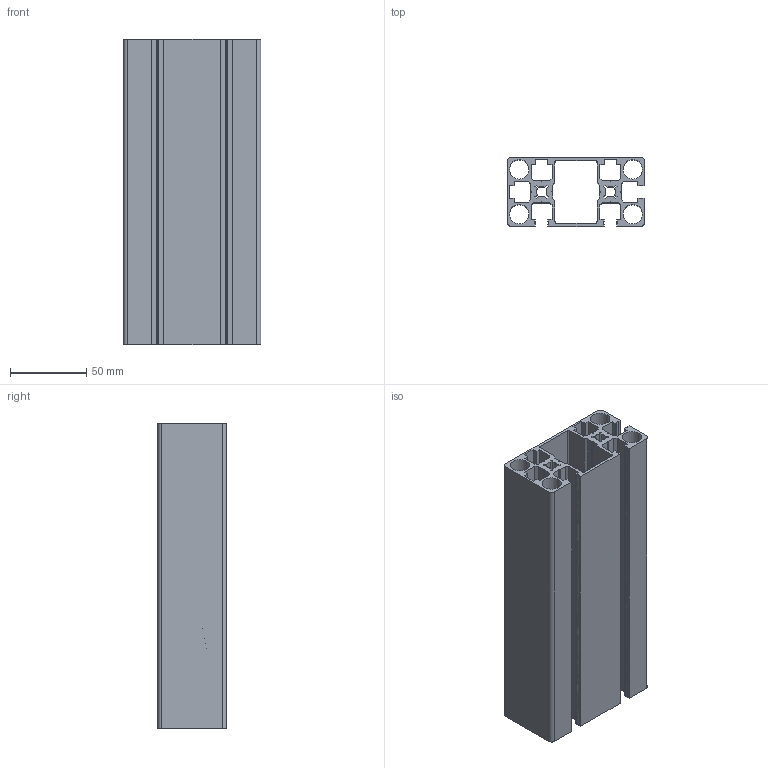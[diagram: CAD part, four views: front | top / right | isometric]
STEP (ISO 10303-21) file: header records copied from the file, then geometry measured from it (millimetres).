
FILE_DESCRIPTION (( 'STEP AP203' ), '1' );
FILE_NAME ('011723 REF 4590L 2C.STEP', '2015-12-01T11:52:06', ( '' ), ( '' ), 'SwSTEP 2.0', 'SolidWorks 2015', '' );
FILE_SCHEMA (( 'CONFIG_CONTROL_DESIGN' ));
Length unit declared in the file: millimetre
Products named in the file (1): 011723 REF 4590L 2C
Bounding box: 90 x 45 x 200 mm (x, y, z)
Volume: 242822.6 mm3; surface area: 187505.8 mm2
Topology: 1 solids, 1 shells, 174 faces, 516 edges, 344 vertices
Faces by surface type: plane 116, cylinder 52, bspline 6
Entity records: 5963 total; most frequent: CARTESIAN_POINT 1137, ORIENTED_EDGE 1032, DIRECTION 946, EDGE_CURVE 516, VECTOR 400, LINE 400, VERTEX_POINT 344, AXIS2_PLACEMENT_3D 273
